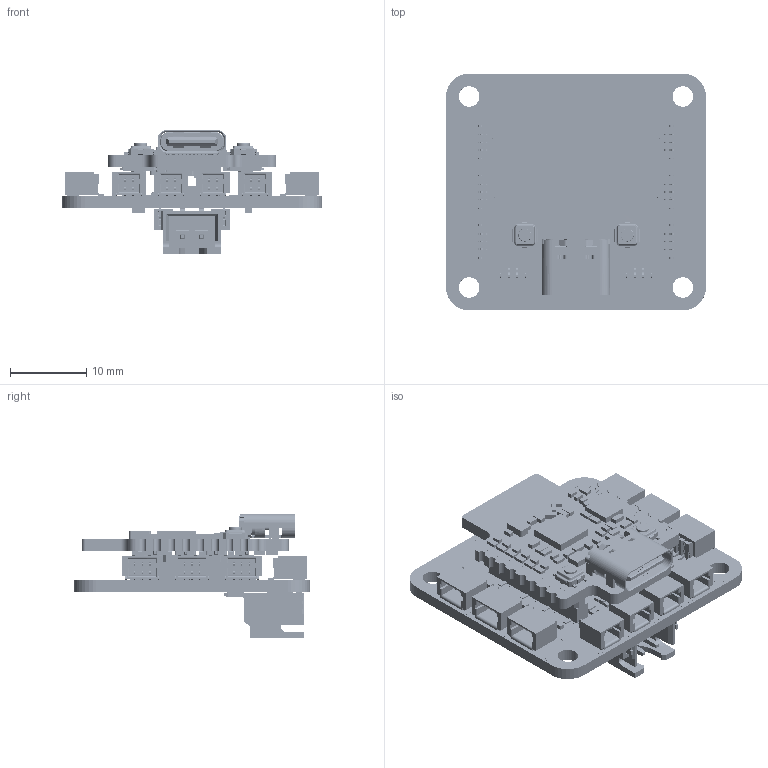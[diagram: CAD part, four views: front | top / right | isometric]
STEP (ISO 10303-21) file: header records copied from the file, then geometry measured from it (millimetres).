
FILE_DESCRIPTION((''),'2;1');
FILE_NAME('02190002_ASM','2025-02-19T15:24:14',('qinghui.yi'),(''),'CREO PARAMETRIC BY PTC INC, 2023154','CREO PARAMETRIC BY PTC INC, 2023154','');
FILE_SCHEMA(('CONFIG_CONTROL_DESIGN'));
Products named in the file (3): 00-CORE-A11000; 00-SHIELD-X12000; 02190002_ASM
Assembly tree (2 placements, depth 2):
  02190002_ASM
    00-CORE-A11000
    00-SHIELD-X12000
Bounding box: 34 x 31 x 16.33 mm (x, y, z)
Volume: 3570.8 mm3; surface area: 7896.1 mm2
Topology: 250 solids, 306 shells, 13627 faces, 40064 edges, 26736 vertices
Faces by surface type: plane 10264, cylinder 3205, extrusion 78, cone 44, torus 24, bspline 12
Entity records: 453867 total; most frequent: CARTESIAN_POINT 86017, ORIENTED_EDGE 79100, DIRECTION 72657, EDGE_CURVE 40060, VECTOR 33315, LINE 33237, VERTEX_POINT 26734, AXIS2_PLACEMENT_3D 19671
